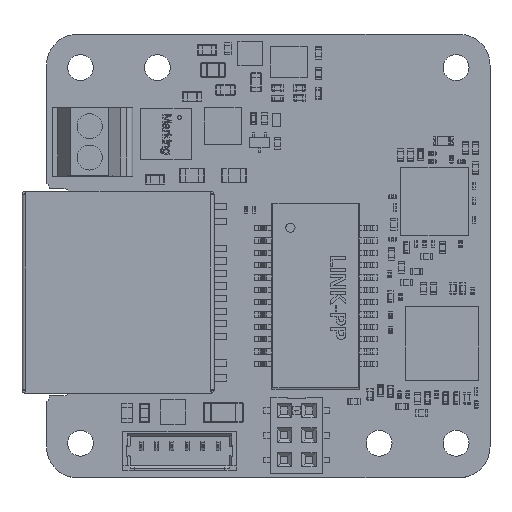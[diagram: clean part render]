
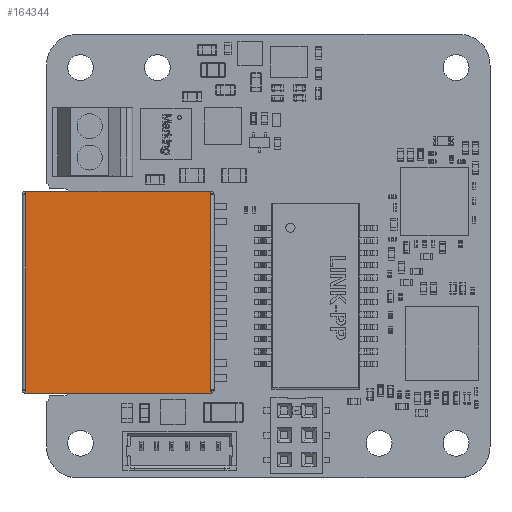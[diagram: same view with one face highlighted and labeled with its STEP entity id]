
A CAD part, top view. The second image highlights one B-rep face of the part: STEP entity #164344.
In plain terms, the highlighted planar face has unit normal (0, 0, 1).
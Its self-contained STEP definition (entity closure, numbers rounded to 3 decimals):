
#25113=FACE_OUTER_BOUND('',#35576,.T.);
#35576=EDGE_LOOP('',(#138869,#138870,#138871,#138872,#138873,#138874,#138875,
#138876));
#48434=LINE('',#277186,#61827);
#48438=LINE('',#277195,#61831);
#48443=LINE('',#277205,#61836);
#48444=LINE('',#277208,#61837);
#48449=LINE('',#277217,#61842);
#48450=LINE('',#277219,#61843);
#48455=LINE('',#277226,#61848);
#48456=LINE('',#277227,#61849);
#61827=VECTOR('',#231831,1.);
#61831=VECTOR('',#231837,1.);
#61836=VECTOR('',#231844,1.);
#61837=VECTOR('',#231847,1.);
#61842=VECTOR('',#231854,1.);
#61843=VECTOR('',#231857,1.);
#61848=VECTOR('',#231866,1.);
#61849=VECTOR('',#231867,1.);
#74382=VERTEX_POINT('',#277183);
#74383=VERTEX_POINT('',#277185);
#74386=VERTEX_POINT('',#277192);
#74387=VERTEX_POINT('',#277194);
#74389=VERTEX_POINT('',#277199);
#74391=VERTEX_POINT('',#277203);
#74392=VERTEX_POINT('',#277207);
#74395=VERTEX_POINT('',#277214);
#95988=EDGE_CURVE('',#74383,#74382,#48434,.T.);
#95992=EDGE_CURVE('',#74386,#74387,#48438,.T.);
#95997=EDGE_CURVE('',#74389,#74391,#48443,.T.);
#95998=EDGE_CURVE('',#74392,#74383,#48444,.T.);
#96003=EDGE_CURVE('',#74392,#74395,#48449,.T.);
#96004=EDGE_CURVE('',#74391,#74387,#48450,.T.);
#96009=EDGE_CURVE('',#74389,#74382,#48455,.T.);
#96010=EDGE_CURVE('',#74395,#74386,#48456,.T.);
#138869=ORIENTED_EDGE('',*,*,#96003,.F.);
#138870=ORIENTED_EDGE('',*,*,#95998,.T.);
#138871=ORIENTED_EDGE('',*,*,#95988,.T.);
#138872=ORIENTED_EDGE('',*,*,#96009,.F.);
#138873=ORIENTED_EDGE('',*,*,#95997,.T.);
#138874=ORIENTED_EDGE('',*,*,#96004,.T.);
#138875=ORIENTED_EDGE('',*,*,#95992,.F.);
#138876=ORIENTED_EDGE('',*,*,#96010,.F.);
#144511=PLANE('',#183024);
#164344=ADVANCED_FACE('',(#25113),#144511,.F.);
#183024=AXIS2_PLACEMENT_3D('',#277225,#231864,#231865);
#231831=DIRECTION('',(0.,1.,0.));
#231837=DIRECTION('',(0.,1.,0.));
#231844=DIRECTION('',(0.,1.,0.));
#231847=DIRECTION('',(1.,0.,0.));
#231854=DIRECTION('',(0.,1.,0.));
#231857=DIRECTION('',(-1.,0.,0.));
#231864=DIRECTION('center_axis',(0.,0.,
-1.));
#231865=DIRECTION('ref_axis',(1.,0.,0.));
#231866=DIRECTION('',(0.,-1.,0.));
#231867=DIRECTION('',(0.,1.,0.));
#277183=CARTESIAN_POINT('',(13.305,7.1,13.263));
#277185=CARTESIAN_POINT('',(13.305,6.8,13.263));
#277186=CARTESIAN_POINT('',(13.305,15.,13.263));
#277192=CARTESIAN_POINT('',(-1.695,22.9,13.263));
#277194=CARTESIAN_POINT('',(-1.695,23.2,13.263));
#277195=CARTESIAN_POINT('',(-1.695,15.,13.263));
#277199=CARTESIAN_POINT('',(13.305,22.9,13.263));
#277203=CARTESIAN_POINT('',(13.305,23.2,13.263));
#277205=CARTESIAN_POINT('',(13.305,15.,13.263));
#277207=CARTESIAN_POINT('',(-1.695,6.8,13.263));
#277208=CARTESIAN_POINT('',(5.73,6.8,13.263));
#277214=CARTESIAN_POINT('',(-1.695,7.1,13.263));
#277217=CARTESIAN_POINT('',(-1.695,15.,13.263));
#277219=CARTESIAN_POINT('',(5.73,23.2,13.263));
#277225=CARTESIAN_POINT('Origin',(5.73,15.,13.263));
#277226=CARTESIAN_POINT('',(13.305,15.,13.263));
#277227=CARTESIAN_POINT('',(-1.695,15.,13.263));
